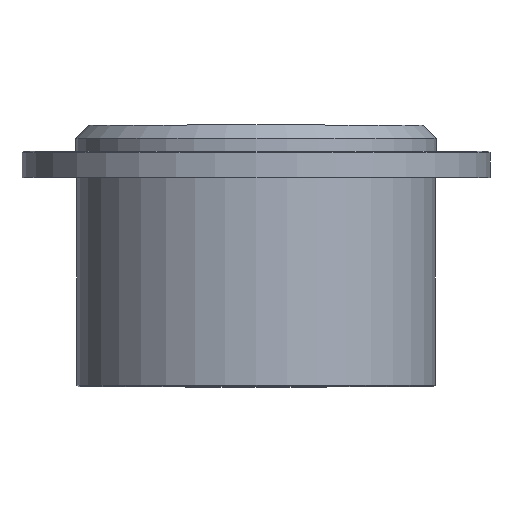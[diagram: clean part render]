
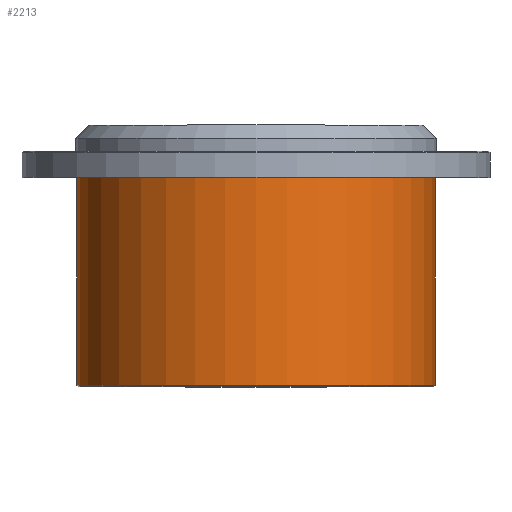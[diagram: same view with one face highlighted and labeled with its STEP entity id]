
A CAD part, top view. The second image highlights one B-rep face of the part: STEP entity #2213.
In plain terms, the highlighted cylindrical face has radius 68.5 mm (diameter 137 mm), a full revolution.
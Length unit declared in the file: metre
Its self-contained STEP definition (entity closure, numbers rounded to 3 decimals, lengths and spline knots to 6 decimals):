
#2213=ADVANCED_FACE('',(#4425,#4426),#4427,.T.);
#4425=FACE_OUTER_BOUND('',#8749,.T.);
#4426=FACE_OUTER_BOUND('',#8750,.T.);
#4427=CYLINDRICAL_SURFACE('',#8751,0.0685);
#8749=EDGE_LOOP('',(#12581));
#8750=EDGE_LOOP('',(#12582));
#8751=AXIS2_PLACEMENT_3D('',#12583,#12584,#12585);
#12581=ORIENTED_EDGE('',*,*,#13410,.F.);
#12582=ORIENTED_EDGE('',*,*,#13393,.T.);
#12583=CARTESIAN_POINT('',(-0.040666,0.099239,0.0));
#12584=DIRECTION('',(-0.0,-1.0,-0.0));
#12585=DIRECTION('',(0.0,0.0,1.0));
#13393=EDGE_CURVE('',#13587,#13587,#13588,.T.);
#13410=EDGE_CURVE('',#13611,#13611,#13612,.T.);
#13587=VERTEX_POINT('',#13878);
#13588=CIRCLE('',#13879,0.0685);
#13611=VERTEX_POINT('',#13907);
#13612=CIRCLE('',#13908,0.0685);
#13878=CARTESIAN_POINT('',(-0.040666,-0.003658,0.0685));
#13879=AXIS2_PLACEMENT_3D('',#14111,#14112,#14113);
#13907=CARTESIAN_POINT('',(-0.040666,0.075869,0.0685));
#13908=AXIS2_PLACEMENT_3D('',#14137,#14138,#14139);
#14111=CARTESIAN_POINT('',(-0.040666,-0.003658,0.0));
#14112=DIRECTION('',(0.0,1.0,0.0));
#14113=DIRECTION('',(0.0,0.0,1.0));
#14137=CARTESIAN_POINT('',(-0.040666,0.075869,0.0));
#14138=DIRECTION('',(0.0,1.0,0.0));
#14139=DIRECTION('',(0.0,0.0,1.0));
